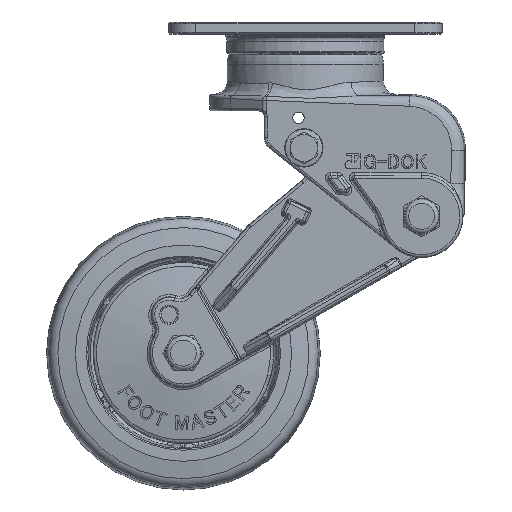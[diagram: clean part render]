
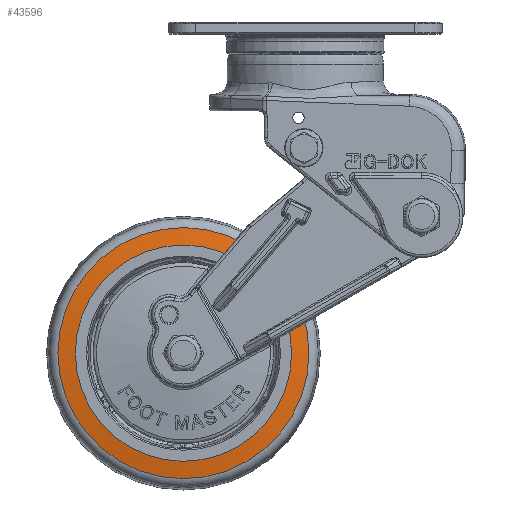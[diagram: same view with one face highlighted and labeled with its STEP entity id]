
A CAD part, front view. The second image highlights one B-rep face of the part: STEP entity #43596.
In plain terms, the highlighted conical face has half-angle 80.918 degrees and reference radius 42.694 mm.
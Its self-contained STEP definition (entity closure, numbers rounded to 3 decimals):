
#1450=CIRCLE('',#46167,45.873);
#1451=CIRCLE('',#46168,39.516);
#1452=CIRCLE('',#46169,45.873);
#3253=CONICAL_SURFACE('',#46166,42.694,1.412);
#6224=FACE_OUTER_BOUND('',#8857,.T.);
#8857=EDGE_LOOP('',(#28255,#28256,#28257,#28258,#28259));
#11906=LINE('',#63017,#14398);
#14398=VECTOR('',#50950,42.694);
#16861=VERTEX_POINT('',#63013);
#16862=VERTEX_POINT('',#63014);
#16863=VERTEX_POINT('',#63016);
#21152=EDGE_CURVE('',#16861,#16862,#1450,.T.);
#21153=EDGE_CURVE('',#16862,#16863,#11906,.T.);
#21154=EDGE_CURVE('',#16863,#16863,#1451,.T.);
#21155=EDGE_CURVE('',#16862,#16861,#1452,.T.);
#28255=ORIENTED_EDGE('',*,*,#21152,.T.);
#28256=ORIENTED_EDGE('',*,*,#21153,.T.);
#28257=ORIENTED_EDGE('',*,*,#21154,.T.);
#28258=ORIENTED_EDGE('',*,*,#21153,.F.);
#28259=ORIENTED_EDGE('',*,*,#21155,.T.);
#43596=ADVANCED_FACE('',(#6224),#3253,.T.);
#46166=AXIS2_PLACEMENT_3D('',#63012,#50946,#50947);
#46167=AXIS2_PLACEMENT_3D('',#63015,#50948,#50949);
#46168=AXIS2_PLACEMENT_3D('',#63018,#50951,#50952);
#46169=AXIS2_PLACEMENT_3D('',#63019,#50953,#50954);
#50946=DIRECTION('center_axis',(0.,1.,0.));
#50947=DIRECTION('ref_axis',(0.867,0.,0.498));
#50948=DIRECTION('center_axis',(0.,-1.,0.));
#50949=DIRECTION('ref_axis',(0.498,0.,-0.867));
#50950=DIRECTION('',(0.856,-0.158,0.492));
#50951=DIRECTION('center_axis',(0.,1.,0.));
#50952=DIRECTION('ref_axis',(0.867,0.,0.498));
#50953=DIRECTION('center_axis',(0.,-1.,0.));
#50954=DIRECTION('ref_axis',(0.498,0.,-0.867));
#63012=CARTESIAN_POINT('Origin',(-44.521,-14.492,-121.));
#63013=CARTESIAN_POINT('',(-67.374,-13.984,-81.225));
#63014=CARTESIAN_POINT('',(-84.295,-13.984,-143.853));
#63015=CARTESIAN_POINT('Origin',(-44.521,-13.984,-121.));
#63016=CARTESIAN_POINT('',(-78.784,-15.,-140.686));
#63017=CARTESIAN_POINT('',(-81.54,-14.492,-142.27));
#63018=CARTESIAN_POINT('Origin',(-44.521,-15.,-121.));
#63019=CARTESIAN_POINT('Origin',(-44.521,-13.984,-121.));
